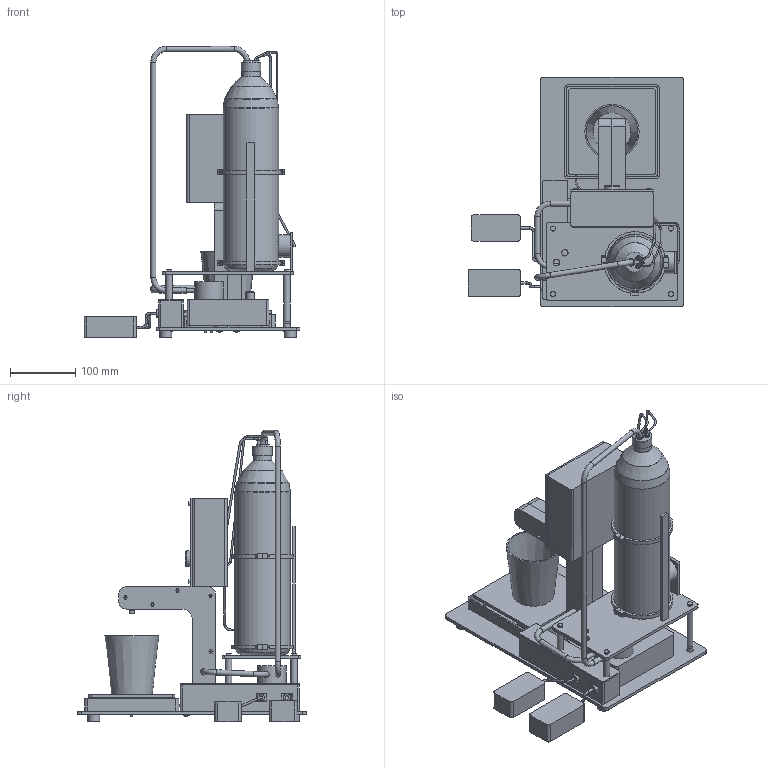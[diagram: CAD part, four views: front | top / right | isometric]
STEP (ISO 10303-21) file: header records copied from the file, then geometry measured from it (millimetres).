
FILE_DESCRIPTION(('FreeCAD Model'),'2;1');
FILE_NAME('Open CASCADE Shape Model','2026-11-06T11:24:16',('FreeCAD'),( 'FreeCAD'),'Open CASCADE STEP processor 7.8','FreeCAD','Unknown');
FILE_SCHEMA(('AUTOMOTIVE_DESIGN { 1 0 10303 214 1 1 1 1 }'));
Length unit declared in the file: millimetre
Products named in the file (1): Open CASCADE STEP translator 7.8 25
Bounding box: 330 x 350 x 445 mm (x, y, z)
Volume: 2036753.4 mm3; surface area: 1041302.9 mm2
Topology: 242 solids, 242 shells, 1831 faces, 3795 edges, 2494 vertices
Faces by surface type: plane 1355, cylinder 407, torus 47, cone 17, extrusion 5
Full cylindrical faces by diameter (mm): 1.2 x2, 2 x10, 2.4 x10, 2.6 x6, 2.8 x3, 3 x35, 3.2 x3, 3.4 x38, 3.6 x19, 4 x18, 4.4 x9, 4.5 x16, 4.6 x8, 5 x9, 5.5 x2, 5.7 x22, 5.8 x1, 6 x13, 7.6 x14, 8 x9, 8.4 x1, 9 x13, 9.5 x2, 9.6 x6, 10 x12, 11 x6, 12 x2, 12.1 x1, 13 x1, 16 x1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
Entity records: 49165 total; most frequent: CARTESIAN_POINT 9117, DIRECTION 8368, ORIENTED_EDGE 7590, EDGE_CURVE 3795, VECTOR 2818, LINE 2813, AXIS2_PLACEMENT_3D 2775, VERTEX_POINT 2494
